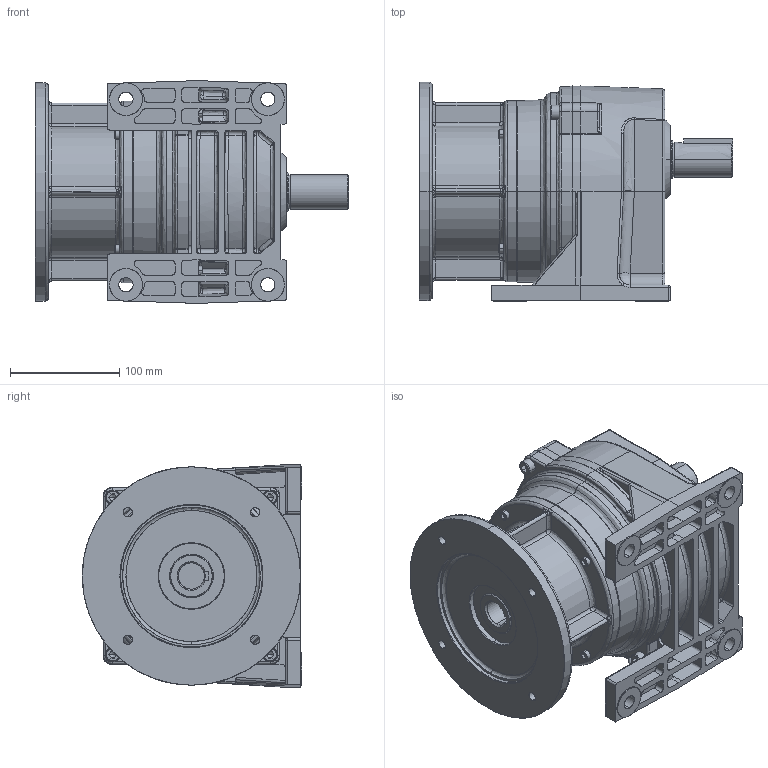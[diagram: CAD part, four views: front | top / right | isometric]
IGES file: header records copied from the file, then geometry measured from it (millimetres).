
Start section: SolidWorks IGES file using analytic representation for surfaces
Bounding box: 287 x 201 x 204 mm (x, y, z)
Surface area: 422936.8 mm2 (no closed solid volume)
Topology: 0 solids, 0 shells, 970 faces, 11873 edges, 11834 vertices
Faces by surface type: bspline 557, revolution 413
